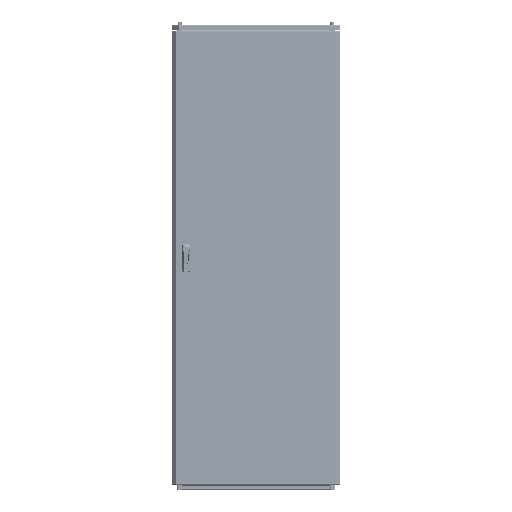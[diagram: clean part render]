
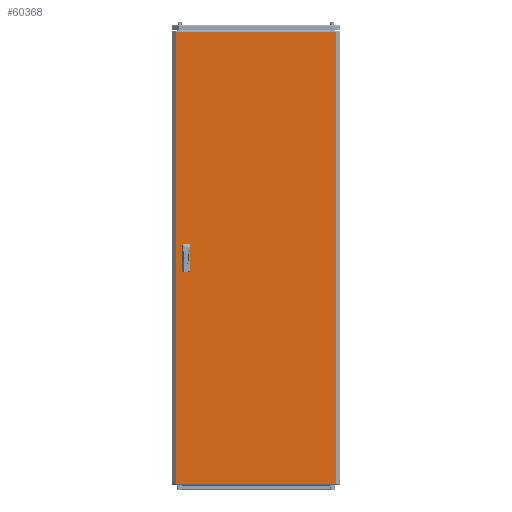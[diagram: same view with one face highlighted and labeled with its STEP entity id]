
A CAD part, top view. The second image highlights one B-rep face of the part: STEP entity #60368.
In plain terms, the highlighted planar face has unit normal (0, 0, 1).
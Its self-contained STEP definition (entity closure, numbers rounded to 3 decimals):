
#778 = CARTESIAN_POINT ( 'NONE',  ( -317.5, 12.5, 0. ) ) ;
#2883 = DIRECTION ( 'NONE',  ( 0., 0., -1. ) ) ;
#4995 = LINE ( 'NONE', #227158, #58959 ) ;
#10284 = VECTOR ( 'NONE', #55023, 1000. ) ;
#14820 = VERTEX_POINT ( 'NONE', #30812 ) ;
#16161 = CARTESIAN_POINT ( 'NONE',  ( -342.5, 12.5, 0. ) ) ;
#21702 = CARTESIAN_POINT ( 'NONE',  ( 377.875, -1069.5, 0. ) ) ;
#30812 = CARTESIAN_POINT ( 'NONE',  ( -342.5, 62.5, 0. ) ) ;
#34138 = CARTESIAN_POINT ( 'NONE',  ( -317.5, -62.5, 0. ) ) ;
#41249 = DIRECTION ( 'NONE',  ( 1., 0., 0. ) ) ;
#42131 = FACE_BOUND ( 'NONE', #241639, .T. ) ;
#44662 = VERTEX_POINT ( 'NONE', #243058 ) ;
#47345 = VERTEX_POINT ( 'NONE', #153693 ) ;
#48511 = EDGE_CURVE ( 'NONE', #101455, #55606, #108374, .T. ) ;
#54459 = DIRECTION ( 'NONE',  ( 0., 1., 0. ) ) ;
#55023 = DIRECTION ( 'NONE',  ( 0., 1., 0. ) ) ;
#55606 = VERTEX_POINT ( 'NONE', #74585 ) ;
#57857 = ORIENTED_EDGE ( 'NONE', *, *, #157066, .F. ) ;
#58629 = CARTESIAN_POINT ( 'NONE',  ( -342.5, 62.5, 0. ) ) ;
#58804 = LINE ( 'NONE', #137260, #247004 ) ;
#58959 = VECTOR ( 'NONE', #203711, 1000. ) ;
#59699 = VERTEX_POINT ( 'NONE', #197360 ) ;
#60368 = ADVANCED_FACE ( 'NONE', ( #42131, #75245, #141472 ), #234664, .F. ) ;
#65566 = CARTESIAN_POINT ( 'NONE',  ( -342.5, -62.5, 0. ) ) ;
#69201 = CARTESIAN_POINT ( 'NONE',  ( -377.875, 1069.5, 0. ) ) ;
#69429 = EDGE_CURVE ( 'NONE', #151603, #47345, #188552, .T. ) ;
#73457 = EDGE_CURVE ( 'NONE', #47345, #101455, #119784, .T. ) ;
#74585 = CARTESIAN_POINT ( 'NONE',  ( -377.875, 1069.5, 0. ) ) ;
#75245 = FACE_BOUND ( 'NONE', #225003, .T. ) ;
#75399 = VECTOR ( 'NONE', #140964, 1000. ) ;
#76062 = ORIENTED_EDGE ( 'NONE', *, *, #126084, .F. ) ;
#78100 = EDGE_CURVE ( 'NONE', #55606, #151603, #58804, .T. ) ;
#80273 = ORIENTED_EDGE ( 'NONE', *, *, #48511, .T. ) ;
#84623 = VECTOR ( 'NONE', #54459, 1000. ) ;
#88087 = EDGE_CURVE ( 'NONE', #59699, #154441, #151749, .T. ) ;
#91321 = VERTEX_POINT ( 'NONE', #117895 ) ;
#92178 = EDGE_CURVE ( 'NONE', #14820, #91321, #182434, .T. ) ;
#98500 = LINE ( 'NONE', #16161, #154416 ) ;
#99478 = CARTESIAN_POINT ( 'NONE',  ( -342.5, -12.5, 0. ) ) ;
#101455 = VERTEX_POINT ( 'NONE', #156330 ) ;
#102270 = VECTOR ( 'NONE', #41249, 1000. ) ;
#102739 = VECTOR ( 'NONE', #236180, 1000. ) ;
#108374 = LINE ( 'NONE', #69201, #186324 ) ;
#112726 = ORIENTED_EDGE ( 'NONE', *, *, #237935, .F. ) ;
#113234 = EDGE_LOOP ( 'NONE', ( #254513, #80273, #257523, #234402 ) ) ;
#115763 = DIRECTION ( 'NONE',  ( -1., 0., 0. ) ) ;
#117895 = CARTESIAN_POINT ( 'NONE',  ( -342.5, 12.5, 0. ) ) ;
#119784 = LINE ( 'NONE', #21702, #220593 ) ;
#126084 = EDGE_CURVE ( 'NONE', #44662, #14820, #201022, .T. ) ;
#127182 = CARTESIAN_POINT ( 'NONE',  ( -377.875, -1069.5, 0. ) ) ;
#129362 = ORIENTED_EDGE ( 'NONE', *, *, #165029, .F. ) ;
#132923 = CARTESIAN_POINT ( 'NONE',  ( -317.5, 12.5, 0. ) ) ;
#135138 = ORIENTED_EDGE ( 'NONE', *, *, #184119, .F. ) ;
#135574 = LINE ( 'NONE', #155141, #102739 ) ;
#137260 = CARTESIAN_POINT ( 'NONE',  ( -377.875, -1069.5, 0. ) ) ;
#140964 = DIRECTION ( 'NONE',  ( -1., 0., 0. ) ) ;
#141472 = FACE_OUTER_BOUND ( 'NONE', #113234, .T. ) ;
#151603 = VERTEX_POINT ( 'NONE', #240086 ) ;
#151749 = LINE ( 'NONE', #34138, #10284 ) ;
#151813 = ORIENTED_EDGE ( 'NONE', *, *, #233564, .F. ) ;
#153693 = CARTESIAN_POINT ( 'NONE',  ( 377.875, -1069.5, 0. ) ) ;
#154416 = VECTOR ( 'NONE', #176913, 1000. ) ;
#154441 = VERTEX_POINT ( 'NONE', #255010 ) ;
#155141 = CARTESIAN_POINT ( 'NONE',  ( -342.5, -62.5, 0. ) ) ;
#156330 = CARTESIAN_POINT ( 'NONE',  ( 377.875, 1069.5, 0. ) ) ;
#157066 = EDGE_CURVE ( 'NONE', #257811, #59699, #178537, .T. ) ;
#159064 = ORIENTED_EDGE ( 'NONE', *, *, #92178, .F. ) ;
#165029 = EDGE_CURVE ( 'NONE', #91321, #190087, #98500, .T. ) ;
#169279 = AXIS2_PLACEMENT_3D ( 'NONE', #222468, #2883, #115763 ) ;
#176913 = DIRECTION ( 'NONE',  ( 1., 0., 0. ) ) ;
#178537 = LINE ( 'NONE', #220291, #102270 ) ;
#182434 = LINE ( 'NONE', #222875, #253225 ) ;
#184119 = EDGE_CURVE ( 'NONE', #154441, #229048, #4995, .T. ) ;
#185565 = DIRECTION ( 'NONE',  ( -1., 0., 0. ) ) ;
#186324 = VECTOR ( 'NONE', #185565, 1000. ) ;
#187289 = DIRECTION ( 'NONE',  ( 1., 0., 0. ) ) ;
#188552 = LINE ( 'NONE', #127182, #257386 ) ;
#190087 = VERTEX_POINT ( 'NONE', #778 ) ;
#197360 = CARTESIAN_POINT ( 'NONE',  ( -317.5, -62.5, 0. ) ) ;
#198911 = ORIENTED_EDGE ( 'NONE', *, *, #88087, .F. ) ;
#201022 = LINE ( 'NONE', #58629, #75399 ) ;
#203711 = DIRECTION ( 'NONE',  ( -1., 0., 0. ) ) ;
#215675 = DIRECTION ( 'NONE',  ( 0., -1., 0. ) ) ;
#220291 = CARTESIAN_POINT ( 'NONE',  ( -342.5, -62.5, 0. ) ) ;
#220593 = VECTOR ( 'NONE', #257020, 1000. ) ;
#222468 = CARTESIAN_POINT ( 'NONE',  ( 0., 0., 0. ) ) ;
#222875 = CARTESIAN_POINT ( 'NONE',  ( -342.5, 12.5, 0. ) ) ;
#225003 = EDGE_LOOP ( 'NONE', ( #135138, #198911, #57857, #112726 ) ) ;
#227158 = CARTESIAN_POINT ( 'NONE',  ( -342.5, -12.5, 0. ) ) ;
#228958 = DIRECTION ( 'NONE',  ( 0., -1., 0. ) ) ;
#229048 = VERTEX_POINT ( 'NONE', #99478 ) ;
#229600 = LINE ( 'NONE', #132923, #84623 ) ;
#233564 = EDGE_CURVE ( 'NONE', #190087, #44662, #229600, .T. ) ;
#234402 = ORIENTED_EDGE ( 'NONE', *, *, #69429, .T. ) ;
#234664 = PLANE ( 'NONE',  #169279 ) ;
#236180 = DIRECTION ( 'NONE',  ( 0., -1., 0. ) ) ;
#237935 = EDGE_CURVE ( 'NONE', #229048, #257811, #135574, .T. ) ;
#240086 = CARTESIAN_POINT ( 'NONE',  ( -377.875, -1069.5, 0. ) ) ;
#241639 = EDGE_LOOP ( 'NONE', ( #76062, #151813, #129362, #159064 ) ) ;
#243058 = CARTESIAN_POINT ( 'NONE',  ( -317.5, 62.5, 0. ) ) ;
#247004 = VECTOR ( 'NONE', #215675, 1000. ) ;
#253225 = VECTOR ( 'NONE', #228958, 1000. ) ;
#254513 = ORIENTED_EDGE ( 'NONE', *, *, #73457, .T. ) ;
#255010 = CARTESIAN_POINT ( 'NONE',  ( -317.5, -12.5, 0. ) ) ;
#257020 = DIRECTION ( 'NONE',  ( 0., 1., 0. ) ) ;
#257386 = VECTOR ( 'NONE', #187289, 1000. ) ;
#257523 = ORIENTED_EDGE ( 'NONE', *, *, #78100, .T. ) ;
#257811 = VERTEX_POINT ( 'NONE', #65566 ) ;
